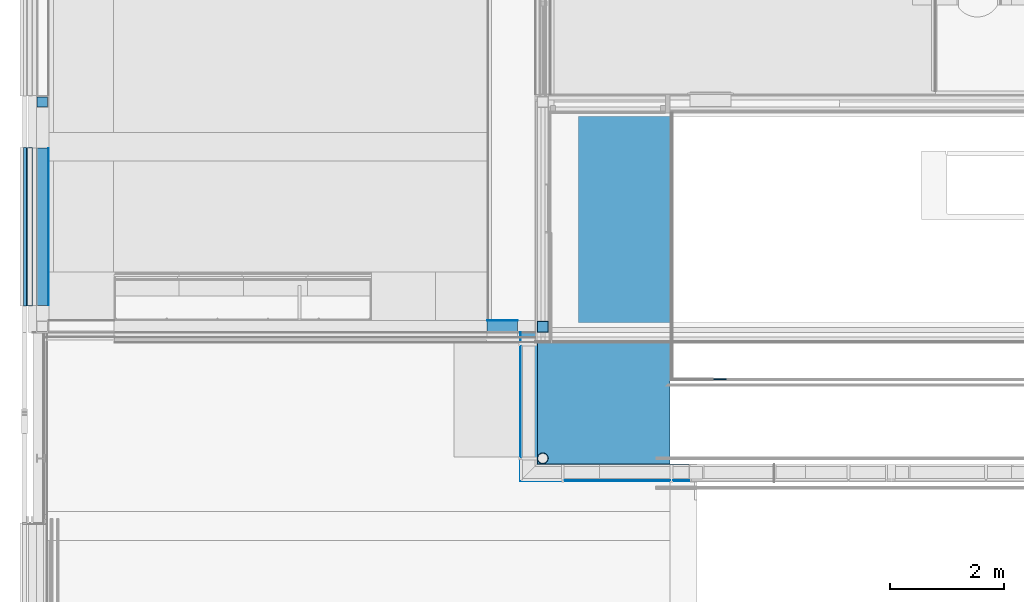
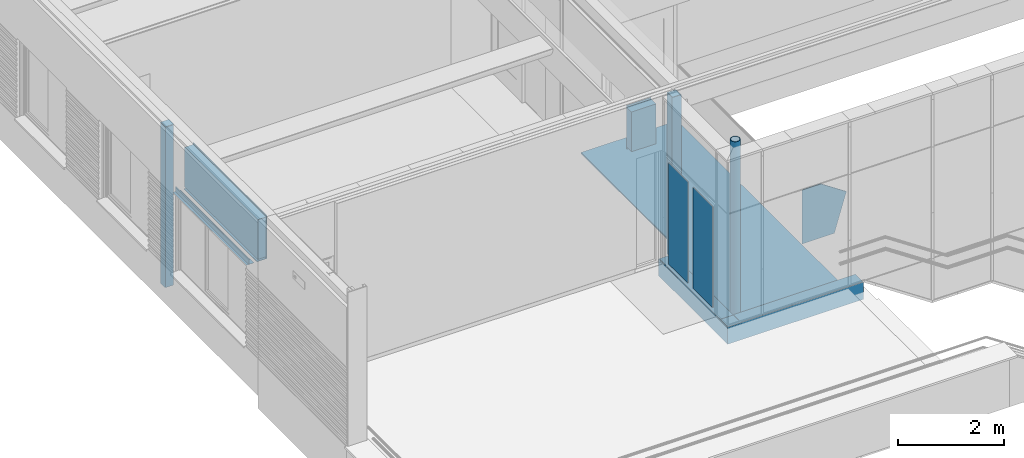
# One storey, part 55 of 137: 18 building element parts, 12 elements without a shape of their own.
"""IFC2X3 building model written with IfcOpenShell, lengths in millimetres."""

import ifcopenshell
import ifcopenshell.guid

model = None  # the IFC model being written
_history = None  # IfcOwnerHistory: only IFC2X3 demands one
_inside = {}  # id of a spatial element -> (the spatial element, [elements in it])
_under = {}  # id of a project, library or spatial element -> (it, [spatial elements below it])
_declared = {}  # id of a project -> (the project, [libraries it declares])
_typed = {}  # id of a type object -> (the type object, [elements of that type])
_made_of = {}  # id of a material, layer set ... -> (it, [elements and type objects made of it])


def new_model(schema):
    """Start an empty IFC model of exactly this schema.

    Asked for "IFC4X3", IfcOpenShell would pick the latest addendum, in which some entities
    have other attributes; the version numbers below select the first issue.
    IFC2X3 requires an IfcOwnerHistory on every rooted entity: one is made here for all.
    """
    global model, _history
    if schema == "IFC4X3":
        model = ifcopenshell.file(schema_version=(4, 3, 0, 0))
    else:
        model = ifcopenshell.file(schema=schema)
    _inside.clear()
    _under.clear()
    _declared.clear()
    _typed.clear()
    _made_of.clear()
    _history = None
    if model.schema == "IFC2X3":
        org = make("IfcOrganization", Name="unknown")
        user = make(
            "IfcPersonAndOrganization",
            ThePerson=make("IfcPerson", FamilyName="unknown"),
            TheOrganization=org,
        )
        app = make(
            "IfcApplication",
            ApplicationDeveloper=org,
            Version="unknown",
            ApplicationFullName="unknown",
            ApplicationIdentifier="unknown",
        )
        _history = make(
            "IfcOwnerHistory",
            OwningUser=user,
            OwningApplication=app,
            ChangeAction="ADDED",
            CreationDate=0,
        )
    return model


def make(cls, **values):
    """One entity of the class cls with the attributes given. An attribute that is None is left unset."""
    return model.create_entity(
        cls, **{name: value for name, value in values.items() if value is not None}
    )


def entity(cls, *values):
    """Any entity or typed value of the class cls, its attributes in the order of the schema. None: left unset."""
    e = model.create_entity(cls)
    for i, value in enumerate(values):
        if value is not None:
            e[i] = value
    return e


def rooted(cls, **values):
    """An entity with a GlobalId (a new one), such as an element, a storey or a relation."""
    return make(cls, GlobalId=ifcopenshell.guid.new(), OwnerHistory=_history, **values)


def si_unit(unit_type, name, prefix=None):
    """IfcSIUnit, for example si_unit("LENGTHUNIT", "METRE", prefix="MILLI")."""
    return make("IfcSIUnit", UnitType=unit_type, Prefix=prefix, Name=name)


def converted_unit(unit_type, name, factor, base, dimensions=None, offset=None):
    """IfcConversionBasedUnit, such as the inch: factor (a typed value) times the base unit."""
    return make(
        "IfcConversionBasedUnit"
        if offset is None
        else "IfcConversionBasedUnitWithOffset",
        ConversionOffset=offset,
        Dimensions=None
        if dimensions is None
        else entity("IfcDimensionalExponents", *dimensions),
        UnitType=unit_type,
        Name=name,
        ConversionFactor=make(
            "IfcMeasureWithUnit", ValueComponent=factor, UnitComponent=base
        ),
    )


def derived_unit(unit_type, elements):
    """IfcDerivedUnit: a product of units, each with its exponent."""
    return make(
        "IfcDerivedUnit",
        Elements=[
            make("IfcDerivedUnitElement", Unit=unit, Exponent=power)
            for unit, power in elements
        ],
        UnitType=unit_type,
    )


def money_unit(currency):
    """IfcMonetaryUnit."""
    return make("IfcMonetaryUnit", Currency=currency)


def assignment(units):
    """IfcUnitAssignment: the units of a project."""
    return None if units is None else make("IfcUnitAssignment", Units=units)


def point(xyz):
    """IfcCartesianPoint."""
    return None if xyz is None else make("IfcCartesianPoint", Coordinates=xyz)


def direction(xyz):
    """IfcDirection."""
    return None if xyz is None else make("IfcDirection", DirectionRatios=xyz)


def frame(location, z_axis=None, x_axis=None):
    """IfcAxis2Placement3D, a coordinate frame: its origin and axes. An axis left out is left unset."""
    return make(
        "IfcAxis2Placement3D",
        Location=point(location),
        Axis=direction(z_axis),
        RefDirection=direction(x_axis),
    )


def origin_with_axes():
    """The frame at (0, 0, 0) with the z axis (0, 0, 1) and the x axis (1, 0, 0) written out."""
    return frame((0.0, 0.0, 0.0), z_axis=(0.0, 0.0, 1.0), x_axis=(1.0, 0.0, 0.0))


def place(relative_to, where):
    """IfcLocalPlacement: puts the frame where relative to a parent placement (None: the world)."""
    return make(
        "IfcLocalPlacement", PlacementRelTo=relative_to, RelativePlacement=where
    )


def context(
    kind, dimensions, precision=None, world=None, true_north=None, identifier=None
):
    """IfcGeometricRepresentationContext, for example the 3D "Model" context."""
    return make(
        "IfcGeometricRepresentationContext",
        ContextIdentifier=identifier,
        ContextType=kind,
        CoordinateSpaceDimension=dimensions,
        Precision=precision,
        WorldCoordinateSystem=world,
        TrueNorth=true_north,
    )


def subcontext(parent, identifier, kind, view, scale=None):
    """IfcGeometricRepresentationSubContext, for example "Body" below "Model"."""
    return make(
        "IfcGeometricRepresentationSubContext",
        ContextIdentifier=identifier,
        ContextType=kind,
        ParentContext=parent,
        TargetScale=scale,
        TargetView=view,
    )


def project(units=None, contexts=None):
    """IfcProject with its units and contexts."""
    return rooted(
        "IfcProject",
        Name="project",
        RepresentationContexts=contexts,
        UnitsInContext=assignment(units),
    )


def spatial(cls, under=None, at=None, **own):
    """A site, building, storey or space (cls), placed at a placement, below another one or the project."""
    s = rooted(cls, ObjectPlacement=at, **own)
    if under is not None:
        _under.setdefault(under.id(), (under, []))[1].append(s)
    return s


def faces_of(points, faces, orient=None, outer=None):
    """IfcFace entities. A face is a list of loops; a loop is a list of indices into points, from 0.

    orient and outer hold one flag for each loop. By default every Orientation is true, the
    first loop of a face is its IfcFaceOuterBound and the others are IfcFaceBound.
    """
    made = []
    for i, loops in enumerate(faces):
        bounds = []
        for j, loop in enumerate(loops):
            is_outer = j == 0 if outer is None else outer[i][j]
            bounds.append(
                make(
                    "IfcFaceOuterBound" if is_outer else "IfcFaceBound",
                    Bound=make("IfcPolyLoop", Polygon=[points[k] for k in loop]),
                    Orientation=True if orient is None else orient[i][j],
                )
            )
        made.append(make("IfcFace", Bounds=bounds))
    return made


def faceted_brep(points, faces, orient=None, outer=None, voids=None):
    """IfcFacetedBrep: a solid bounded by flat faces; with voids (closed shells), ...WithVoids."""
    shared = [point(p) for p in points]
    hull = make("IfcClosedShell", CfsFaces=faces_of(shared, faces, orient, outer))
    if voids is None:
        return make("IfcFacetedBrep", Outer=hull)
    return make(
        "IfcFacetedBrepWithVoids",
        Outer=hull,
        Voids=[
            make(cls, CfsFaces=faces_of(shared, fs, o, b)) for cls, fs, o, b in voids
        ],
    )


def shape(context_of_items, identifier, shape_type, items):
    """IfcShapeRepresentation: the items that make up one representation, for example the "Body"."""
    return make(
        "IfcShapeRepresentation",
        ContextOfItems=context_of_items,
        RepresentationIdentifier=identifier,
        RepresentationType=shape_type,
        Items=items,
    )


def material(Name=None, Category=None):
    """IfcMaterial."""
    return make("IfcMaterial", Name=Name, Category=Category)


def made_of(thing, what):
    """Note that an element or type object is made of a material, layer set ...; save() writes the relation."""
    if what is not None:
        _made_of.setdefault(what.id(), (what, []))[1].append(thing)
    return thing


def type_object(cls, material=None, **own):
    """A type object (cls), such as IfcWallType, which elements share."""
    return made_of(rooted(cls, **own), material)


def element(
    cls,
    number,
    at=None,
    inside=None,
    cuts=None,
    type_object=None,
    material=None,
    context=None,
    identifier="Body",
    shape_type=None,
    held_by="IfcProductDefinitionShape",
    body=None,
    shapes=None,
    **own,
):
    """One element of the class cls, such as IfcWall. Its Tag is "e" and its number.

    at: its placement. inside: the storey or other place that contains it. cuts: it is an
    opening in that element (IfcRelVoidsElement). A single representation is given by context,
    identifier, shape_type and body (its items); several are given by shapes. held_by: the class
    of the entity that holds the representations. save() writes the other relations.
    """
    e = rooted(cls, Tag="e%d" % number, ObjectPlacement=at, **own)
    if body is not None:
        shapes = [shape(context, identifier, shape_type, body)]
    if shapes is not None:
        e.Representation = make(held_by, Representations=shapes)
    if inside is not None:
        _inside.setdefault(inside.id(), (inside, []))[1].append(e)
    if cuts is not None:
        rooted(
            "IfcRelVoidsElement", RelatingBuildingElement=cuts, RelatedOpeningElement=e
        )
    if type_object is not None:
        _typed.setdefault(type_object.id(), (type_object, []))[1].append(e)
    return made_of(e, material)


def aggregate(whole, parts):
    """IfcRelAggregates: a whole, such as a stair, and the parts it consists of."""
    return rooted("IfcRelAggregates", RelatingObject=whole, RelatedObjects=parts)


def save(model, path):
    """Write the relations noted so far, then the file.

    IfcRelAggregates (storeys below a building ...), IfcRelContainedInSpatialStructure (elements
    in a storey), IfcRelDefinesByType, IfcRelAssociatesMaterial and IfcRelDeclares: one each for
    every whole, place, type object, material and project.
    """
    for whole, parts in _under.values():
        aggregate(whole, parts)
    for where, things in _inside.values():
        rooted(
            "IfcRelContainedInSpatialStructure",
            RelatedElements=things,
            RelatingStructure=where,
        )
    for kind, things in _typed.values():
        rooted("IfcRelDefinesByType", RelatedObjects=things, RelatingType=kind)
    for what, things in _made_of.values():
        rooted("IfcRelAssociatesMaterial", RelatedObjects=things, RelatingMaterial=what)
    for by, libraries in _declared.values():
        rooted("IfcRelDeclares", RelatingContext=by, RelatedDefinitions=libraries)
    model.write(path)


model = new_model("IFC2X3")

# Units and contexts
model_context = context("Model", 3, precision=0.01, world=origin_with_axes(), true_north=direction((0.0, 1.0)))
body_context = subcontext(model_context, "Body", "Model", "MODEL_VIEW")
ifc_project = project(units=[si_unit("LENGTHUNIT", "METRE", prefix="MILLI"), si_unit("AREAUNIT", "SQUARE_METRE"), si_unit("VOLUMEUNIT", "CUBIC_METRE"), converted_unit("PLANEANGLEUNIT", "DEGREE", entity("IfcPlaneAngleMeasure", 0.0174532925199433), si_unit("PLANEANGLEUNIT", "RADIAN"), dimensions=[0, 0, 0, 0, 0, 0, 0]), money_unit("EUR"), converted_unit("TIMEUNIT", "Year", entity("IfcTimeMeasure", 31556926.0), si_unit("TIMEUNIT", "SECOND"), dimensions=[0, 0, 1, 0, 0, 0, 0]), si_unit("MASSUNIT", "GRAM", prefix="KILO"), si_unit("THERMODYNAMICTEMPERATUREUNIT", "DEGREE_CELSIUS"), si_unit("LUMINOUSINTENSITYUNIT", "LUMEN"), si_unit("ENERGYUNIT", "JOULE", prefix="MEGA"), derived_unit("THERMALCONDUCTANCEUNIT", [(si_unit("POWERUNIT", "WATT"), 1), (si_unit("LENGTHUNIT", "METRE"), -1), (si_unit("THERMODYNAMICTEMPERATUREUNIT", "KELVIN"), -1)]), derived_unit("SPECIFICHEATCAPACITYUNIT", [(si_unit("ENERGYUNIT", "JOULE"), 1), (si_unit("MASSUNIT", "GRAM", prefix="KILO"), -1), (si_unit("THERMODYNAMICTEMPERATUREUNIT", "KELVIN"), -1)]), derived_unit("MASSDENSITYUNIT", [(si_unit("MASSUNIT", "GRAM", prefix="KILO"), 1), (si_unit("VOLUMEUNIT", "CUBIC_METRE"), -1)])], contexts=[model_context])

# Site, building, storey
site_placement = place(None, origin_with_axes())
site = spatial("IfcSite", under=ifc_project, at=site_placement, Name="Site", CompositionType="ELEMENT")
building_placement = place(site_placement, origin_with_axes())
building = spatial("IfcBuilding", under=site, at=building_placement, Name="Naam gebouw", CompositionType="ELEMENT")
storey_placement = place(building_placement, frame((0.0, 0.0, 3960.0), z_axis=(0.0, 0.0, 1.0), x_axis=(1.0, 0.0, 0.0)))
storey = spatial("IfcBuildingStorey", under=building, at=storey_placement, Name="1e verdieping", CompositionType="ELEMENT", Elevation=3960.0)

# Column, building element part
column_type_1 = type_object("IfcColumnType", Name="193.7X12.5 194 x 194", PredefinedType="COLUMN")
column_1_placement = place(storey_placement, frame((8850.000000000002, 4579.999999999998, -360.0000000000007), z_axis=(0.0, 0.0, 1.0), x_axis=(1.0, 0.0, 0.0)))
column_1 = element("IfcColumn", 1, at=column_1_placement, inside=storey, type_object=column_type_1, Name="28_Kolom-x", ObjectType="COLUMN")
ifc_material_1 = material(Name="Metaal - Staal C")
building_element_part_1_placement = place(column_1_placement, origin_with_axes())
building_element_part_1 = element("IfcBuildingElementPart", 2, at=building_element_part_1_placement, material=ifc_material_1, Name="Metaal - Staal C", context=body_context, shape_type="Brep", body=[
    faceted_brep([(96.84999999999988, 0.0, 0.0), (92.92689449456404, 27.28579813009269, 0.0), (92.92689449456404, 27.28579813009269, 4310.000000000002), (96.84999999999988, 0.0, 4310.000000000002), (92.92689449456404, -27.28579813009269, 0.0), (81.47540465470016, -52.36106317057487, 0.0), (63.42326208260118, -73.19434627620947, 0.0), (40.23294400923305, -88.0978587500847, 0.0), (13.78319208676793, -95.86420664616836, 0.0), (-13.78319208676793, -95.86420664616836, 0.0), (-40.23294400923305, -88.0978587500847, 0.0), (-63.42326208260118, -73.19434627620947, 0.0), (-81.47540465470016, -52.36106317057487, 0.0), (-92.92689449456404, -27.28579813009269, 0.0), (-96.84999999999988, 0.0, 0.0), (-92.92689449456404, 27.28579813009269, 0.0), (-81.47540465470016, 52.36106317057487, 0.0), (-63.42326208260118, 73.19434627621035, 0.0), (-40.23294400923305, 88.0978587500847, 0.0), (-13.78319208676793, 95.86420664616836, 0.0), (13.78319208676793, 95.86420664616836, 0.0), (40.23294400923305, 88.0978587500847, 0.0), (63.42326208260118, 73.19434627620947, 0.0), (81.47540465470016, 52.36106317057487, 0.0), (84.35000000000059, 0.0, 0.0), (80.93323232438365, 23.76414116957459, 0.0), (70.959735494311, 45.6030529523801, 0.0), (55.23750290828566, 63.74747659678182, 0.0), (35.0402563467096, 76.72745880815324, 0.0), (12.00425660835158, 83.49143862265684, 0.0), (-12.00425660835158, 83.49143862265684, 0.0), (-35.0402563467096, 76.72745880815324, 0.0), (-55.23750290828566, 63.74747659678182, 0.0), (-70.95973549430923, 45.6030529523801, 0.0), (-80.93323232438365, 23.76414116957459, 0.0), (-84.35000000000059, 0.0, 0.0), (-80.93323232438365, -23.76414116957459, 0.0), (-70.95973549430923, -45.60305295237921, 0.0), (-55.23750290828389, -63.74747659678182, 0.0), (-35.0402563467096, -76.72745880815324, 0.0), (-12.00425660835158, -83.49143862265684, 0.0), (12.00425660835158, -83.49143862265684, 0.0), (35.0402563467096, -76.72745880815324, 0.0), (55.23750290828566, -63.74747659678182, 0.0), (70.959735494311, -45.60305295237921, 0.0), (80.93323232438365, -23.76414116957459, 0.0), (81.47540465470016, 52.36106317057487, 4310.000000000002), (63.42326208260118, 73.19434627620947, 4310.000000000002), (40.23294400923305, 88.0978587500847, 4310.000000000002), (13.78319208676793, 95.86420664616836, 4310.000000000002), (-13.78319208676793, 95.86420664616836, 4310.000000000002), (-40.23294400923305, 88.0978587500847, 4310.000000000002), (-63.42326208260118, 73.19434627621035, 4310.000000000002), (-81.47540465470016, 52.36106317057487, 4310.000000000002), (-92.92689449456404, 27.28579813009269, 4310.000000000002), (-96.84999999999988, 0.0, 4310.000000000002), (-92.92689449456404, -27.28579813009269, 4310.000000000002), (-81.47540465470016, -52.36106317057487, 4310.000000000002), (-63.42326208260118, -73.19434627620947, 4310.000000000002), (-40.23294400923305, -88.0978587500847, 4310.000000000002), (-13.78319208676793, -95.86420664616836, 4310.000000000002), (13.78319208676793, -95.86420664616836, 4310.000000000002), (40.23294400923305, -88.0978587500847, 4310.000000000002), (63.42326208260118, -73.19434627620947, 4310.000000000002), (81.47540465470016, -52.36106317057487, 4310.000000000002), (92.92689449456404, -27.28579813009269, 4310.000000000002), (84.35000000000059, 0.0, 4310.000000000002), (80.93323232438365, -23.76414116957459, 4310.000000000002), (70.959735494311, -45.60305295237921, 4310.000000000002), (55.23750290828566, -63.74747659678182, 4310.000000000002), (35.0402563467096, -76.72745880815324, 4310.000000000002), (12.00425660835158, -83.49143862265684, 4310.000000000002), (-12.00425660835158, -83.49143862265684, 4310.000000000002), (-35.0402563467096, -76.72745880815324, 4310.000000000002), (-55.23750290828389, -63.74747659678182, 4310.000000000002), (-70.95973549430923, -45.60305295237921, 4310.000000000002), (-80.93323232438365, -23.76414116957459, 4310.000000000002), (-84.35000000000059, 0.0, 4310.000000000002), (-80.93323232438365, 23.76414116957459, 4310.000000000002), (-70.95973549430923, 45.6030529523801, 4310.000000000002), (-55.23750290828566, 63.74747659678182, 4310.000000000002), (-35.0402563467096, 76.72745880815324, 4310.000000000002), (-12.00425660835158, 83.49143862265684, 4310.000000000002), (12.00425660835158, 83.49143862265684, 4310.000000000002), (35.0402563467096, 76.72745880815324, 4310.000000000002), (55.23750290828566, 63.74747659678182, 4310.000000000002), (70.959735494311, 45.6030529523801, 4310.000000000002), (80.93323232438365, 23.76414116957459, 4310.000000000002)], [[[0, 1, 2, 3]], [[0, 4, 5, 6, 7, 8, 9, 10, 11, 12, 13, 14, 15, 16, 17, 18, 19, 20, 21, 22, 23, 1], [24, 25, 26, 27, 28, 29, 30, 31, 32, 33, 34, 35, 36, 37, 38, 39, 40, 41, 42, 43, 44, 45]], [[1, 23, 46, 2]], [[3, 2, 46, 47, 48, 49, 50, 51, 52, 53, 54, 55, 56, 57, 58, 59, 60, 61, 62, 63, 64, 65], [66, 67, 68, 69, 70, 71, 72, 73, 74, 75, 76, 77, 78, 79, 80, 81, 82, 83, 84, 85, 86, 87]], [[4, 0, 3, 65]], [[5, 4, 65, 64]], [[6, 5, 64, 63]], [[7, 6, 63, 62]], [[8, 7, 62, 61]], [[9, 8, 61, 60]], [[10, 9, 60, 59]], [[11, 10, 59, 58]], [[12, 11, 58, 57]], [[13, 12, 57, 56]], [[14, 13, 56, 55]], [[15, 14, 55, 54]], [[16, 15, 54, 53]], [[17, 16, 53, 52]], [[18, 17, 52, 51]], [[19, 18, 51, 50]], [[20, 19, 50, 49]], [[21, 20, 49, 48]], [[22, 21, 48, 47]], [[23, 22, 47, 46]], [[25, 24, 66, 87]], [[26, 25, 87, 86]], [[27, 26, 86, 85]], [[28, 27, 85, 84]], [[29, 28, 84, 83]], [[30, 29, 83, 82]], [[31, 30, 82, 81]], [[32, 31, 81, 80]], [[33, 32, 80, 79]], [[34, 33, 79, 78]], [[35, 34, 78, 77]], [[36, 35, 77, 76]], [[37, 36, 76, 75]], [[38, 37, 75, 74]], [[39, 38, 74, 73]], [[40, 39, 73, 72]], [[41, 40, 72, 71]], [[42, 41, 71, 70]], [[43, 42, 70, 69]], [[44, 43, 69, 68]], [[45, 44, 68, 67]], [[24, 45, 67, 66]]]),
])
aggregate(column_1, [building_element_part_1])

column_type_2 = type_object("IfcColumnType", Name="200X200X10 200 x 200", PredefinedType="COLUMN")
column_2_placement = place(storey_placement, frame((99.99999999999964, 10810.00011055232, -100.0000000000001), z_axis=(0.0, 0.0, 1.0), x_axis=(1.0, 0.0, 0.0)))
column_2 = element("IfcColumn", 3, at=column_2_placement, inside=storey, type_object=column_type_2, Name="28_Kolom-x", ObjectType="COLUMN")
ifc_material_2 = material(Name="Beton gewapend C")
building_element_part_2_placement = place(column_2_placement, origin_with_axes())
building_element_part_2 = element("IfcBuildingElementPart", 4, at=building_element_part_2_placement, material=ifc_material_2, Name="Beton gewapend C", context=body_context, shape_type="Brep", body=[
    faceted_brep([(-89.99999999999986, 89.99999999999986, 3685.000001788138), (89.99999999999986, 89.99999999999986, 3685.000001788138), (89.99999999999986, 89.99999999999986, 0.0), (-89.99999999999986, 89.99999999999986, 0.0), (89.99999999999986, -89.99999999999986, 3685.000001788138), (-89.99999999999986, -89.99999999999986, 3685.000001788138), (89.99999999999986, -89.99999999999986, 0.0), (-89.99999999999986, -89.99999999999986, 0.0)], [[[0, 1, 2, 3]], [[4, 1, 0, 5]], [[1, 4, 6, 2]], [[2, 6, 7, 3]], [[5, 0, 3, 7]], [[4, 5, 7, 6]]]),
    faceted_brep([(89.99999999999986, -89.99999999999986, 3695.000001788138), (89.99999999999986, 89.99999999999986, 3695.000001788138), (89.99999999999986, 89.99999999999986, 3699.999999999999), (89.99999999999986, -89.99999999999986, 3699.999999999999), (-89.99999999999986, 89.99999999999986, 3695.000001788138), (-89.99999999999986, -89.99999999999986, 3695.000001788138), (-89.99999999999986, 89.99999999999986, 3699.999999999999), (-89.99999999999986, -89.99999999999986, 3699.999999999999)], [[[0, 1, 2, 3]], [[4, 1, 0, 5]], [[1, 4, 6, 2]], [[2, 6, 7, 3]], [[5, 0, 3, 7]], [[4, 5, 7, 6]]]),
])
aggregate(column_2, [building_element_part_2])

# Beam, building element parts
beam_type_1 = type_object("IfcBeamType", Name="41 Latei/geveldrager 158 x 112", PredefinedType="BEAM")
beam_1_placement = place(storey_placement, frame((-180.0001274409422, 7244.999999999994, 2610.0), z_axis=(0.0, 0.0, 1.0), x_axis=(1.0, 0.0, 0.0)))
beam_1 = element("IfcBeam", 5, at=beam_1_placement, inside=storey, type_object=beam_type_1, Name="_Regenwaterafvoer-x", ObjectType="BEAM")
building_element_part_3_placement = place(beam_1_placement, origin_with_axes())
building_element_part_3 = element("IfcBuildingElementPart", 6, at=building_element_part_3_placement, material=ifc_material_1, Name="Metaal - Staal C", context=body_context, shape_type="Brep", body=[
    faceted_brep([(-49.99999999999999, 2769.999999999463, 6.55651533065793e-07), (-49.99999999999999, 2769.999999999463, -3.000000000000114), (-49.99999999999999, 0.0, -3.000000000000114), (-49.99999999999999, 0.0, 6.55651533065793e-07), (-5.960468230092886e-08, 2769.999999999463, 6.55651533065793e-07), (-5.960468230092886e-08, 2769.999999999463, 99.3417707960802), (16.54654975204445, 2769.999999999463, 108.8949262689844), (18.04655007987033, 2769.999999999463, 106.2968498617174), (3.000000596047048, 2769.999999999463, 96.99999988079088), (3.000000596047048, 2769.999999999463, 6.55651533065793e-07), (3.000000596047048, 2769.999999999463, -3.000000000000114), (3.000000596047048, 0.0, -3.000000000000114), (3.000000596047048, 0.0, 6.55651533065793e-07), (3.000000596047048, 0.0, 96.99999988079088), (18.04655007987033, 0.0, 106.2968498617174), (16.54654975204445, 0.0, 108.8949262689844), (-5.960468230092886e-08, 0.0, 99.3417707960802), (-5.960468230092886e-08, 0.0, 6.55651533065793e-07)], [[[0, 1, 2, 3]], [[0, 4, 5, 6, 7, 8, 9, 10, 1]], [[1, 10, 11, 2]], [[3, 2, 11, 12, 13, 14, 15, 16, 17]], [[4, 0, 3, 17]], [[5, 4, 17, 16]], [[6, 5, 16, 15]], [[7, 6, 15, 14]], [[8, 7, 14, 13]], [[9, 8, 13, 12]], [[10, 9, 12, 11]]]),
])
building_element_part_4_placement = place(beam_1_placement, origin_with_axes())
building_element_part_4 = element("IfcBuildingElementPart", 7, at=building_element_part_4_placement, material=ifc_material_1, Name="Metaal - Staal C", context=body_context, shape_type="Brep", body=[
    faceted_brep([(3.000000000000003, 2769.999999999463, -3.000000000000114), (108.0, 2769.999999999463, -3.000000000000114), (108.0, 0.0, -3.000000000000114), (3.000000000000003, 0.0, -3.000000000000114), (3.000000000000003, 2769.999999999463, 0.0), (108.0, 2769.999999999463, 0.0), (108.0, 0.0, 0.0), (3.000000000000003, 0.0, 0.0)], [[[0, 1, 2, 3]], [[0, 4, 5, 1]], [[1, 5, 6, 2]], [[3, 2, 6, 7]], [[4, 0, 3, 7]], [[5, 4, 7, 6]]]),
])
aggregate(beam_1, [building_element_part_3, building_element_part_4])

# Column, building element parts
column_3_placement = place(storey_placement, frame((8850.000000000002, 6879.999999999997, -100.0000000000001), z_axis=(0.0, 0.0, 1.0), x_axis=(1.0, 0.0, 0.0)))
column_3 = element("IfcColumn", 8, at=column_3_placement, inside=storey, type_object=column_type_2, Name="28_Kolom-x", ObjectType="COLUMN")
building_element_part_5_placement = place(column_3_placement, origin_with_axes())
building_element_part_5 = element("IfcBuildingElementPart", 9, at=building_element_part_5_placement, material=ifc_material_2, Name="Beton gewapend C", context=body_context, shape_type="Brep", body=[
    faceted_brep([(-89.99999999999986, 89.99999999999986, 3683.000002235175), (89.99999999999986, 89.99999999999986, 3683.000002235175), (89.99999999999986, 89.99999999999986, 0.0), (-89.99999999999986, 89.99999999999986, 0.0), (89.99999999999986, -89.99999999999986, 3683.000002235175), (-89.99999999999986, -89.99999999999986, 3683.000002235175), (89.99999999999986, -89.99999999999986, 0.0), (-89.99999999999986, -89.99999999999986, 0.0)], [[[0, 1, 2, 3]], [[4, 1, 0, 5]], [[1, 4, 6, 2]], [[2, 6, 7, 3]], [[5, 0, 3, 7]], [[4, 5, 7, 6]]]),
    faceted_brep([(89.99999999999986, -89.99999999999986, 3695.000002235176), (89.99999999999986, 89.99999999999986, 3695.000002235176), (89.99999999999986, 89.99999999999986, 3699.999999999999), (89.99999999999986, -89.99999999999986, 3699.999999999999), (-89.99999999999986, 89.99999999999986, 3695.000002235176), (-89.99999999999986, -89.99999999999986, 3695.000002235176), (-89.99999999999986, 89.99999999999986, 3699.999999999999), (-89.99999999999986, -89.99999999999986, 3699.999999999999)], [[[0, 1, 2, 3]], [[4, 1, 0, 5]], [[1, 4, 6, 2]], [[2, 6, 7, 3]], [[5, 0, 3, 7]], [[4, 5, 7, 6]]]),
])
building_element_part_6_placement = place(column_3_placement, origin_with_axes())
building_element_part_6 = element("IfcBuildingElementPart", 10, at=building_element_part_6_placement, material=ifc_material_1, Name="Metaal - Staal C", context=body_context, shape_type="Brep", body=[
    faceted_brep([(-99.99999999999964, -99.99999999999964, 0.0), (99.99999999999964, -99.99999999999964, 0.0), (99.99999999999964, -99.99999999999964, 3699.999999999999), (-99.99999999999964, -99.99999999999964, 3699.999999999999), (-99.99999999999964, 99.99999999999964, 0.0), (99.99999999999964, 99.99999999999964, 0.0), (-89.99999999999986, -89.99999999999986, 0.0), (89.99999999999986, -89.99999999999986, 0.0), (89.99999999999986, 89.99999999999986, 0.0), (-89.99999999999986, 89.99999999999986, 0.0), (99.99999999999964, 99.99999999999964, 3699.999999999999), (-99.99999999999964, 99.99999999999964, 3699.999999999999), (-89.99999999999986, -89.99999999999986, 3699.999999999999), (-89.99999999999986, 89.99999999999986, 3699.999999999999), (89.99999999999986, 89.99999999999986, 3699.999999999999), (89.99999999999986, -89.99999999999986, 3699.999999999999)], [[[0, 1, 2, 3]], [[0, 4, 5, 1], [6, 7, 8, 9]], [[1, 5, 10, 2]], [[3, 2, 10, 11], [12, 13, 14, 15]], [[4, 0, 3, 11]], [[5, 4, 11, 10]], [[7, 6, 12, 15]], [[8, 7, 15, 14]], [[9, 8, 14, 13]], [[6, 9, 13, 12]]]),
])
aggregate(column_3, [building_element_part_5, building_element_part_6])

# Slab, building element part
slab_type = type_object("IfcSlabType", Name="43 Zwevende dekvloer 100", PredefinedType="NOTDEFINED")
slab_placement = place(storey_placement, frame((8750.013310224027, 6604.999839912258, 0.0), z_axis=(0.0, 0.0, 1.0), x_axis=(1.0, 0.0, 0.0)))
slab = element("IfcSlab", 11, at=slab_placement, inside=storey, type_object=slab_type, Name="_Vloer-x", PredefinedType="NOTDEFINED")
ifc_material_3 = material(Name="Isolatie - XPS zwevende dekvloer")
building_element_part_7_placement = place(slab_placement, origin_with_axes())
building_element_part_7 = element("IfcBuildingElementPart", 12, at=building_element_part_7_placement, material=ifc_material_3, Name="Isolatie - XPS zwevende dekvloer", context=body_context, shape_type="Brep", body=[
    faceted_brep([(3.136689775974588, 2.13690221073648e-06, -100.0000000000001), (3.136689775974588, 2.13690221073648e-06, -69.99999999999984), (234.9876335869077, 0.00016008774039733, -69.99999999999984), (234.9876335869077, 0.00016008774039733, -100.0000000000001), (3.136689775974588, -2124.999839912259, -69.99999999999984), (3.136689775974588, -2124.999839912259, -100.0000000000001), (2325.032282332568, -2124.999839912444, -69.99999999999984), (2325.032282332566, 4015.000270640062, -69.99999999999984), (234.9890812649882, 4015.000270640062, -69.99999999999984), (234.9890812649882, 4015.000270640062, -100.0000000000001), (2325.032282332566, 4015.000270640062, -100.0000000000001), (2325.032282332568, -2124.999839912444, -100.0000000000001)], [[[0, 1, 2, 3]], [[4, 1, 0, 5]], [[1, 4, 6, 7, 8, 2]], [[8, 9, 3, 2]], [[5, 0, 3, 9, 10, 11]], [[4, 5, 11, 6]], [[6, 11, 10, 7]], [[7, 10, 9, 8]]]),
])
aggregate(slab, [building_element_part_7])

# Beam, building element part
beam_type_2 = type_object("IfcBeamType", Name="34 Glas balustrade binnen 50 x 1800", PredefinedType="BEAM")
beam_2_placement = place(storey_placement, frame((11820.0000367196, 5930.000025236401, 0.0), z_axis=(0.0, 0.0, 1.0), x_axis=(0.0, 1.0, 0.0)))
beam_2 = element("IfcBeam", 13, at=beam_2_placement, inside=storey, type_object=beam_type_2, Name="_Regenwaterafvoer-x", ObjectType="BEAM")
ifc_material_4 = material(Name="Glas")
building_element_part_8_placement = place(beam_2_placement, origin_with_axes())
building_element_part_8 = element("IfcBuildingElementPart", 14, at=building_element_part_8_placement, material=ifc_material_4, Name="Glas", context=body_context, shape_type="Brep", body=[
    faceted_brep([(39.99999585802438, 307.1621300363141, 1157.626983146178), (39.99999585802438, 307.1621300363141, 1149.451051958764), (39.99999585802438, -237.9871081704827, 786.0180644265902), (39.99999585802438, 1.507551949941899e-05, 1.665824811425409e-06), (39.99999585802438, 704.9544523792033, 1.665824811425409e-06), (39.99999585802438, 704.9544523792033, 1153.950484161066), (39.99999585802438, 704.9171121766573, 1153.967896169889), (39.99999585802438, 308.2700120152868, 1153.967897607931), (38.25977180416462, 307.4078259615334, 1156.815503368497), (38.25977180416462, 307.4078259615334, 1148.639572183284), (38.25977477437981, -237.7414127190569, 785.2065874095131), (21.74020185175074, -237.7414571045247, 785.2067332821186), (19.99999211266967, -237.9871827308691, 786.0183098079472), (19.99999211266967, 1.481062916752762e-05, 1.665824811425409e-06), (19.99999211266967, 24.29170493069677, -80.22999964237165), (39.99999585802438, 24.29170519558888, -80.22999964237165), (34.1935917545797, -237.4115455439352, 784.1171099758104), (29.9999882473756, -237.3004740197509, 783.750265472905), (25.80638477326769, -237.4115736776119, 784.1172025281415), (39.99999585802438, 704.9544523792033, -80.22999964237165), (38.29530831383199, 706.6591399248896, 1153.156423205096), (19.99999211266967, 724.9544561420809, -80.22999964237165), (19.99999211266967, 724.9544561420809, 1.665824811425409e-06), (19.99999211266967, 724.9544561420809, 1153.975365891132), (21.75809574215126, 723.19635251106, 1153.156423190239), (25.82862059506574, 719.1258276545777, 1152.066892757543), (30.02670202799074, 714.9277462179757, 1151.699999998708), (34.22478346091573, 710.7296647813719, 1152.066892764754), (38.25978646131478, 706.6591777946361, 1153.156423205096), (38.25978329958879, 308.5157063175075, 1153.156423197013), (34.19360025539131, 308.8455886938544, 1152.066892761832), (29.99999673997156, 308.9566739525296, 1151.700000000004), (25.8063932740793, 308.8455868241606, 1152.066892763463), (21.74021037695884, 308.5157026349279, 1153.156423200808), (19.99999211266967, 308.2700067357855, 1153.967900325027), (19.99999211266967, 307.1621280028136, 1157.626975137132), (21.74019888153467, 307.4078222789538, 1156.815503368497), (25.80638177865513, 307.7377064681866, 1155.725972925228), (29.99998524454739, 307.8487935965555, 1155.359080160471), (34.19358875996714, 307.7377083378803, 1155.725972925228), (34.19358875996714, 307.7377083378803, 1147.550041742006), (19.99999211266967, 307.1621280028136, 1149.451043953), (21.74019888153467, 307.4078222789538, 1148.639572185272), (19.99999211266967, 724.9384492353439, 1153.967901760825), (29.99998524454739, 307.8487935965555, 1147.183148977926), (25.80638177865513, 307.7377064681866, 1147.550041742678), (21.74021353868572, 723.1963715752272, 1153.156423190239), (25.8063965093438, 719.1258513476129, 1152.066892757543), (30.00000000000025, 714.9277746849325, 1151.699999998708), (34.1936034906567, 710.7296980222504, 1152.066892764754)], [[[0, 1, 2, 3, 4, 5, 6, 7]], [[1, 0, 8, 9]], [[10, 2, 1, 9]], [[11, 12, 13, 14, 15, 3, 2, 10, 16, 17, 18]], [[15, 19, 4, 3]], [[20, 5, 4, 19, 21, 22, 23, 24, 25, 26, 27]], [[6, 5, 20, 28]], [[7, 6, 28, 29]], [[0, 7, 29, 30, 31, 32, 33, 34, 35, 36, 37, 38, 39, 8]], [[39, 40, 9, 8]], [[16, 10, 9, 40]], [[41, 12, 11, 42]], [[43, 23, 22, 13, 12, 41, 35, 34]], [[13, 22, 21, 14]], [[14, 21, 19, 15]], [[17, 16, 40, 44]], [[18, 17, 44, 45]], [[11, 18, 45, 42]], [[24, 23, 43, 46]], [[25, 24, 46, 47]], [[26, 25, 47, 48]], [[27, 26, 48, 49]], [[20, 27, 49, 28]], [[30, 29, 28, 49]], [[31, 30, 49, 48]], [[32, 31, 48, 47]], [[32, 47, 46, 33]], [[43, 34, 33, 46]], [[35, 41, 42, 36]], [[36, 42, 45, 37]], [[37, 45, 44, 38]], [[38, 44, 40, 39]]]),
])
aggregate(beam_2, [building_element_part_8])

# Beam, building element parts
beam_type_3 = type_object("IfcBeamType", Name="31 HSB boven kozijnen 214 x 1000", PredefinedType="BEAM")
beam_3_placement = place(storey_placement, frame((8410.0, 6993.999661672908, 2600.000000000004), z_axis=(0.0, 0.0, 1.0), x_axis=(4.022914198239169e-08, 0.9999999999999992, 0.0)))
beam_3 = element("IfcBeam", 15, at=beam_3_placement, inside=storey, type_object=beam_type_3, Name="28_Balk-x", ObjectType="BEAM")
ifc_material_5 = material(Name="Gipsplaat")
building_element_part_9_placement = place(beam_3_placement, origin_with_axes())
building_element_part_9 = element("IfcBuildingElementPart", 16, at=building_element_part_9_placement, material=ifc_material_5, Name="Gipsplaat", context=body_context, shape_type="Brep", body=[
    faceted_brep([(-11.99999661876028, 532.4999958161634, 0.0), (9.341709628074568e-06, 532.4999958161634, 0.0), (9.341709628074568e-06, 0.0, 0.0), (-11.99999661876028, 0.0, 0.0), (-11.99999661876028, 532.4999958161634, 999.9999999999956), (9.341709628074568e-06, 532.4999958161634, 999.9999999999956), (9.341709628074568e-06, 0.0, 999.9999999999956), (-11.99999661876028, 0.0, 999.9999999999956)], [[[0, 1, 2, 3]], [[0, 4, 5, 1]], [[1, 5, 6, 2]], [[3, 2, 6, 7]], [[4, 0, 3, 7]], [[5, 4, 7, 6]]]),
])
ifc_material_6 = material(Name="ALG - ISOLATIE")
building_element_part_10_placement = place(beam_3_placement, origin_with_axes())
building_element_part_10 = element("IfcBuildingElementPart", 17, at=building_element_part_10_placement, material=ifc_material_6, Name="ALG - ISOLATIE", context=body_context, shape_type="Brep", body=[
    faceted_brep([(-11.99999999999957, 532.4999958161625, 49.99999999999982), (-11.99999999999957, 532.4999958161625, 961.9999999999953), (-11.99999999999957, 0.0, 961.9999999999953), (-11.99999999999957, 0.0, 49.99999999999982), (-195.9999999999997, 532.4999958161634, 49.99999999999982), (-195.9999999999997, 532.4999958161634, 961.9999999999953), (-195.9999999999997, 0.0, 961.9999999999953), (-195.9999999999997, 0.0, 49.99999999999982)], [[[0, 1, 2, 3]], [[0, 4, 5, 1]], [[1, 5, 6, 2]], [[3, 2, 6, 7]], [[4, 0, 3, 7]], [[5, 4, 7, 6]]]),
])
aggregate(beam_3, [building_element_part_9, building_element_part_10])

beam_4_placement = place(storey_placement, frame((214.0000000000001, 7254.999999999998, 2600.000000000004), z_axis=(0.0, 0.0, 1.0), x_axis=(1.0, 0.0, 0.0)))
beam_4 = element("IfcBeam", 18, at=beam_4_placement, inside=storey, type_object=beam_type_3, Name="28_Balk-x", ObjectType="BEAM")
building_element_part_11_placement = place(beam_4_placement, origin_with_axes())
building_element_part_11 = element("IfcBuildingElementPart", 19, at=building_element_part_11_placement, material=ifc_material_5, Name="Gipsplaat", context=body_context, shape_type="Brep", body=[
    faceted_brep([(-11.99999661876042, 2750.000000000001, 0.0), (9.34170968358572e-06, 2750.000000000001, 0.0), (9.34170968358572e-06, 0.0, 0.0), (-11.99999661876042, 0.0, 0.0), (-11.99999661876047, 2750.000000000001, 999.9999999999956), (9.341709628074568e-06, 2750.000000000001, 999.9999999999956), (9.341709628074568e-06, 0.0, 999.9999999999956), (-11.99999661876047, 0.0, 999.9999999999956)], [[[0, 1, 2, 3]], [[0, 4, 5, 1]], [[1, 5, 6, 2]], [[3, 2, 6, 7]], [[4, 0, 3, 7]], [[5, 4, 7, 6]]]),
])
building_element_part_12_placement = place(beam_4_placement, origin_with_axes())
building_element_part_12 = element("IfcBuildingElementPart", 20, at=building_element_part_12_placement, material=ifc_material_5, Name="Gipsplaat", context=body_context, shape_type="Brep", body=[
    faceted_brep([(-214.0000025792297, 2750.000000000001, 12.00000596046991), (-214.0000025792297, 2750.000000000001, 0.0), (-214.0000025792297, 0.0, 0.0), (-214.0000025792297, 0.0, 12.00000596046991), (-11.99999661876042, 2750.000000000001, 12.00000596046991), (-11.99999661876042, 2750.000000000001, 0.0), (-11.99999661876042, 0.0, 0.0), (-11.99999661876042, 0.0, 12.00000596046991)], [[[0, 1, 2, 3]], [[0, 4, 5, 1]], [[1, 5, 6, 2]], [[3, 2, 6, 7]], [[4, 0, 3, 7]], [[5, 4, 7, 6]]]),
])
building_element_part_13_placement = place(beam_4_placement, origin_with_axes())
building_element_part_13 = element("IfcBuildingElementPart", 21, at=building_element_part_13_placement, material=ifc_material_6, Name="ALG - ISOLATIE", context=body_context, shape_type="Brep", body=[
    faceted_brep([(-11.99999999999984, 2750.000000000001, 49.99999999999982), (-11.9999999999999, 2750.000000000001, 961.9999999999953), (-11.9999999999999, 0.0, 961.9999999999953), (-11.99999999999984, 0.0, 49.99999999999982), (-195.9999999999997, 2750.000000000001, 49.99999999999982), (-195.9999999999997, 2750.000000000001, 961.9999999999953), (-195.9999999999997, 0.0, 961.9999999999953), (-195.9999999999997, 0.0, 49.99999999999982)], [[[0, 1, 2, 3]], [[0, 4, 5, 1]], [[1, 5, 6, 2]], [[3, 2, 6, 7]], [[4, 0, 3, 7]], [[5, 4, 7, 6]]]),
])
aggregate(beam_4, [building_element_part_11, building_element_part_12, building_element_part_13])

# Curtain wall, plate, building element part
curtain_wall_type = type_object("IfcCurtainWallType", Name="Curtain Wall Type", PredefinedType="NOTDEFINED")
curtain_wall_placement = place(storey_placement, frame((8473.014787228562, 4364.43626274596, -3949.999921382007), z_axis=(0.0, 0.0, 1.0), x_axis=(1.0, 0.0, 0.0)))
curtain_wall = element("IfcCurtainWall", 22, at=curtain_wall_placement, inside=storey, type_object=curtain_wall_type, Name="21_Vliesgevel-x")
plate_type = type_object("IfcPlateType", Name="1969 x 1500 x 42", PredefinedType="CURTAIN_PANEL")
plate_placement = place(curtain_wall_placement, frame((0.0, 1222.405868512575, 5183.333269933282), z_axis=(0.0, 0.0, 1.0), x_axis=(0.0, 1.0, 0.0)))
plate = element("IfcPlate", 23, at=plate_placement, type_object=plate_type, Name="_Paneel-x", ObjectType="CURTAIN_PANEL")
aggregate(curtain_wall, [plate])
building_element_part_14_placement = place(plate_placement, origin_with_axes())
building_element_part_14 = element("IfcBuildingElementPart", 24, at=building_element_part_14_placement, material=ifc_material_4, Name="Glas", context=body_context, shape_type="Brep", body=[
    faceted_brep([(817.1575089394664, 5.000000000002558, -1123.333168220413), (87.49999836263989, 5.000000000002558, -1123.333168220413), (87.49999836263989, 21.00000000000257, -1123.333168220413), (817.1575089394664, 21.00000000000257, -1123.333168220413), (817.1575089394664, 5.000000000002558, 1201.666684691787), (87.49999836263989, 5.000000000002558, 1201.666684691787), (87.49999836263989, 21.00000000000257, 1201.666684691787), (817.1575089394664, 21.00000000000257, 1201.666684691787)], [[[0, 1, 2, 3]], [[0, 4, 5, 1]], [[1, 5, 6, 2]], [[3, 2, 6, 7]], [[4, 0, 3, 7]], [[5, 4, 7, 6]]]),
    faceted_brep([(-112.5000016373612, 5.000000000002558, -1123.333168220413), (-842.1575122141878, 5.000000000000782, -1123.333168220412), (-842.1575122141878, 21.0000000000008, -1123.333168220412), (-112.5000016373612, 21.00000000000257, -1123.333168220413), (-112.5000016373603, 5.000000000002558, 1201.666684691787), (-842.1575122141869, 5.000000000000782, 1201.666684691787), (-842.1575122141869, 21.0000000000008, 1201.666684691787), (-112.5000016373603, 21.00000000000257, 1201.666684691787)], [[[0, 1, 2, 3]], [[0, 4, 5, 1]], [[1, 5, 6, 2]], [[3, 2, 6, 7]], [[4, 0, 3, 7]], [[5, 4, 7, 6]]]),
])
aggregate(plate, [building_element_part_14])

# Wall, building element part
wall_type = type_object("IfcWallType", Name="21 Kantplank 300 297", PredefinedType="NOTDEFINED")
wall_1_placement = place(storey_placement, frame((11406.92566733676, 4479.999999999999, -389.9999999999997), z_axis=(0.0, 0.0, 1.0), x_axis=(-1.0, 0.0, 0.0)))
wall_1 = element("IfcWall", 25, at=wall_1_placement, inside=storey, type_object=wall_type, Name="21_Wand-x")
ifc_material_7 = material(Name="Isolatie - Kunststof hard")
building_element_part_15_placement = place(wall_1_placement, origin_with_axes())
building_element_part_15 = element("IfcBuildingElementPart", 26, at=building_element_part_15_placement, material=ifc_material_7, Name="Isolatie - Kunststof hard", context=body_context, shape_type="Brep", body=[
    faceted_brep([(2938.775667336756, 0.0, 0.0), (2938.775667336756, 0.0, 389.9999999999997), (2653.775667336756, 0.0, 389.9999999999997), (2653.775667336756, 0.0, 400.0001612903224), (0.0, 0.0, 400.0001608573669), (0.0, 0.0, 0.0), (2938.775667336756, 284.9999985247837, 389.9999999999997), (2938.775667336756, 285.0000000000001, 0.0), (2653.775667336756, 284.9999985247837, 389.9999999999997), (2653.775667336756, 284.9999985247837, 400.0001612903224), (0.0, 285.0000000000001, 400.0001608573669), (0.0, 285.0000000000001, 0.0)], [[[0, 1, 2, 3, 4, 5]], [[6, 1, 0, 7]], [[1, 6, 8, 2]], [[8, 9, 3, 2]], [[4, 3, 9, 10]], [[11, 5, 4, 10]], [[7, 0, 5, 11]], [[6, 7, 11, 10, 9, 8]]]),
])

# Wall, building element parts
wall_2_placement = place(storey_placement, frame((8753.150000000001, 4479.999999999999, -389.9999999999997), z_axis=(0.0, 0.0, 1.0), x_axis=(0.0, 1.0, 0.0)))
wall_2 = element("IfcWall", 27, at=wall_2_placement, inside=storey, type_object=wall_type, Name="21_Wand-x")
ifc_material_8 = material(Name="Cementgebonden plaatmateriaal")
building_element_part_16_placement = place(wall_2_placement, origin_with_axes())
building_element_part_16 = element("IfcBuildingElementPart", 28, at=building_element_part_16_placement, material=ifc_material_8, Name="Cementgebonden plaatmateriaal", context=body_context, shape_type="Brep", body=[
    faceted_brep([(2299.999999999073, 285.0000000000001, 389.9999999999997), (2299.999999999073, 297.0000000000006, 389.9999999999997), (-284.9999999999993, 297.0000000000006, 389.9999999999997), (-284.9999999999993, 285.0000000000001, 389.9999999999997), (2299.999999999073, 285.0000000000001, 0.0), (2299.999999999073, 297.0000000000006, 0.0), (-284.9999999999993, 297.0000000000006, 0.0), (-284.9999999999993, 285.0000000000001, 0.0)], [[[0, 1, 2, 3]], [[0, 4, 5, 1]], [[1, 5, 6, 2]], [[3, 2, 6, 7]], [[4, 0, 3, 7]], [[5, 4, 7, 6]]]),
])
building_element_part_17_placement = place(wall_2_placement, origin_with_axes())
building_element_part_17 = element("IfcBuildingElementPart", 29, at=building_element_part_17_placement, material=ifc_material_7, Name="Isolatie - Kunststof hard", context=body_context, shape_type="Brep", body=[
    faceted_brep([(2299.999999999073, 0.0, 389.9999999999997), (2299.999999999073, 285.0000000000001, 389.9999999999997), (0.0, 285.0000000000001, 389.9999999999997), (0.0, 0.0, 389.9999999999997), (2299.999999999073, 0.0, 0.0), (2299.999999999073, 285.0000000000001, 0.0), (0.0, 285.0000000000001, 0.0), (0.0, 0.0, 0.0)], [[[0, 1, 2, 3]], [[0, 4, 5, 1]], [[1, 5, 6, 2]], [[3, 2, 6, 7]], [[4, 0, 3, 7]], [[5, 4, 7, 6]]]),
])
aggregate(wall_2, [building_element_part_16, building_element_part_17])

# Building element part
building_element_part_18_placement = place(wall_1_placement, origin_with_axes())
building_element_part_18 = element("IfcBuildingElementPart", 30, at=building_element_part_18_placement, material=ifc_material_8, Name="Cementgebonden plaatmateriaal", context=body_context, shape_type="Brep", body=[
    faceted_brep([(2950.775665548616, 284.9999985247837, 389.9999999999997), (2653.775667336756, 284.9999985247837, 389.9999999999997), (2653.775667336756, 284.9999985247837, 400.0001612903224), (0.0, 285.0000000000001, 400.0001608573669), (0.0, 285.0000000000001, 0.0), (2950.775665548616, 285.0000000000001, 0.0), (2950.775665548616, 296.9999999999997, 389.9999999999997), (2653.775667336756, 296.9999999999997, 389.9999999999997), (2653.775667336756, 296.9999999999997, 400.0001612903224), (0.0, 296.9999999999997, 400.0001608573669), (0.0, 296.9999999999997, 0.0), (2950.775665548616, 296.9999999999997, 0.0)], [[[0, 1, 2, 3, 4, 5]], [[6, 7, 1, 0]], [[8, 2, 1, 7]], [[2, 8, 9, 3]], [[4, 3, 9, 10]], [[11, 5, 4, 10]], [[6, 0, 5, 11]], [[7, 6, 11, 10, 9, 8]]]),
])

aggregate(wall_1, [building_element_part_15, building_element_part_18])

save(model, "model.ifc")
